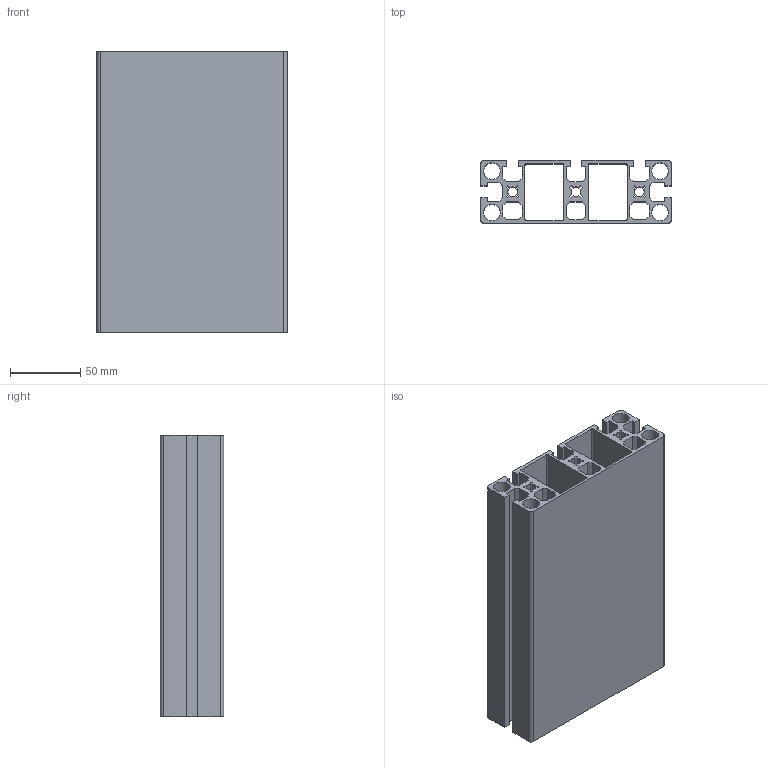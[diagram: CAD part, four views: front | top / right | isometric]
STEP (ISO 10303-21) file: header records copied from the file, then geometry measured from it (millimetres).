
FILE_DESCRIPTION (( 'STEP AP203' ), '1' );
FILE_NAME ('016078 REF 45135 1C.STEP', '2015-12-01T11:50:26', ( '' ), ( '' ), 'SwSTEP 2.0', 'SolidWorks 2015', '' );
FILE_SCHEMA (( 'CONFIG_CONTROL_DESIGN' ));
Length unit declared in the file: millimetre
Products named in the file (1): 016078 REF 45135 1C
Bounding box: 135 x 45 x 200 mm (x, y, z)
Volume: 380426.2 mm3; surface area: 247556.8 mm2
Topology: 1 solids, 1 shells, 159 faces, 471 edges, 314 vertices
Faces by surface type: plane 124, cylinder 35
Entity records: 5400 total; most frequent: CARTESIAN_POINT 945, ORIENTED_EDGE 942, DIRECTION 861, EDGE_CURVE 471, LINE 401, VECTOR 401, VERTEX_POINT 314, AXIS2_PLACEMENT_3D 230
